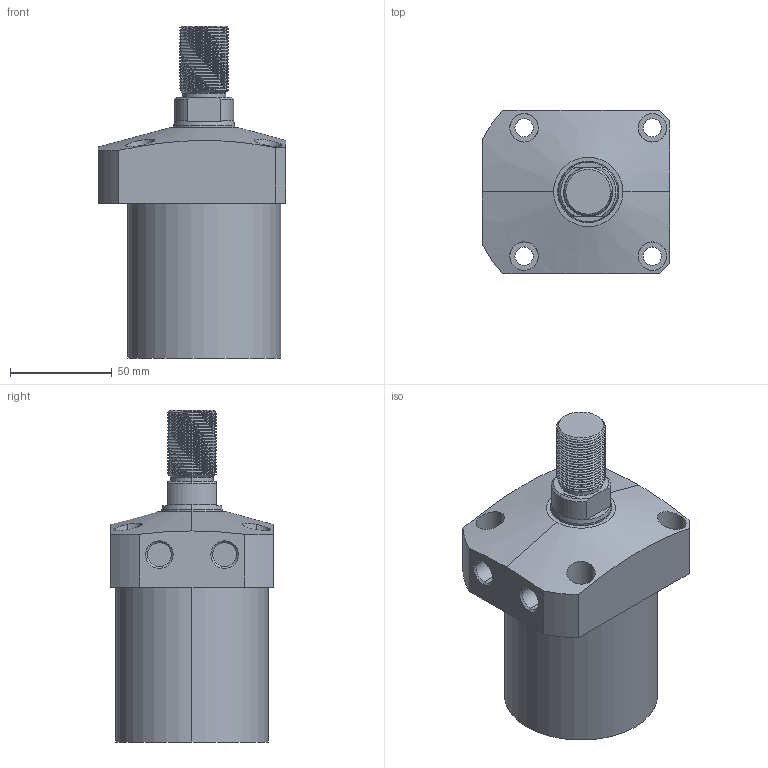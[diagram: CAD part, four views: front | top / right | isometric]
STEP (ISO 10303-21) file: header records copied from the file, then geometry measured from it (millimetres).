
FILE_DESCRIPTION (( 'STEP AP203' ), '1' );
FILE_NAME ('CLL-075CT-060.STEP', '2020-01-08T11:55:09', ( '' ), ( '' ), 'SwSTEP 2.0', 'SolidWorks 2015', '' );
FILE_SCHEMA (( 'CONFIG_CONTROL_DESIGN' ));
Length unit declared in the file: millimetre
Products named in the file (1): CLL-075CT-060
Bounding box: 92 x 80 x 163 mm (x, y, z)
Volume: 578968.4 mm3; surface area: 52288.5 mm2
Topology: 1 solids, 1 shells, 122 faces, 312 edges, 204 vertices
Faces by surface type: cylinder 77, plane 25, cone 16, bspline 4
Entity records: 7964 total; most frequent: CARTESIAN_POINT 5168, ORIENTED_EDGE 624, DIRECTION 511, EDGE_CURVE 312, VERTEX_POINT 204, AXIS2_PLACEMENT_3D 199, EDGE_LOOP 142, FACE_OUTER_BOUND 122
